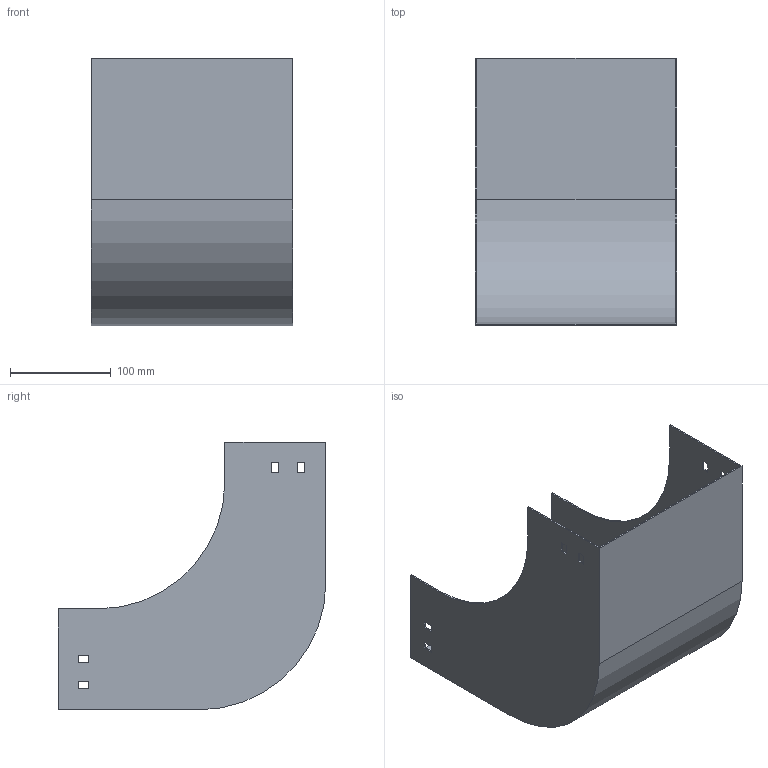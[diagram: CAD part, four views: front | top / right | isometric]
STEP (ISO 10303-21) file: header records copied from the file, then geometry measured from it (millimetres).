
FILE_DESCRIPTION (( 'STEP AP214' ), '1' );
FILE_NAME ('S9_201.step', '2025-07-16T09:27:58', ( '' ), ( '' ), 'SwSTEP 2.0', 'SolidWorks 2023', '' );
FILE_SCHEMA (( 'AUTOMOTIVE_DESIGN' ));
Length unit declared in the file: millimetre
Products named in the file (1): S9_201
Bounding box: 200 x 265 x 265 mm (x, y, z)
Volume: 268573.2 mm3; surface area: 360529.1 mm2
Topology: 1 solids, 1 shells, 50 faces, 144 edges, 96 vertices
Faces by surface type: plane 46, cylinder 4
Entity records: 1671 total; most frequent: CARTESIAN_POINT 291, ORIENTED_EDGE 288, DIRECTION 254, EDGE_CURVE 144, VECTOR 136, LINE 136, VERTEX_POINT 96, EDGE_LOOP 66
